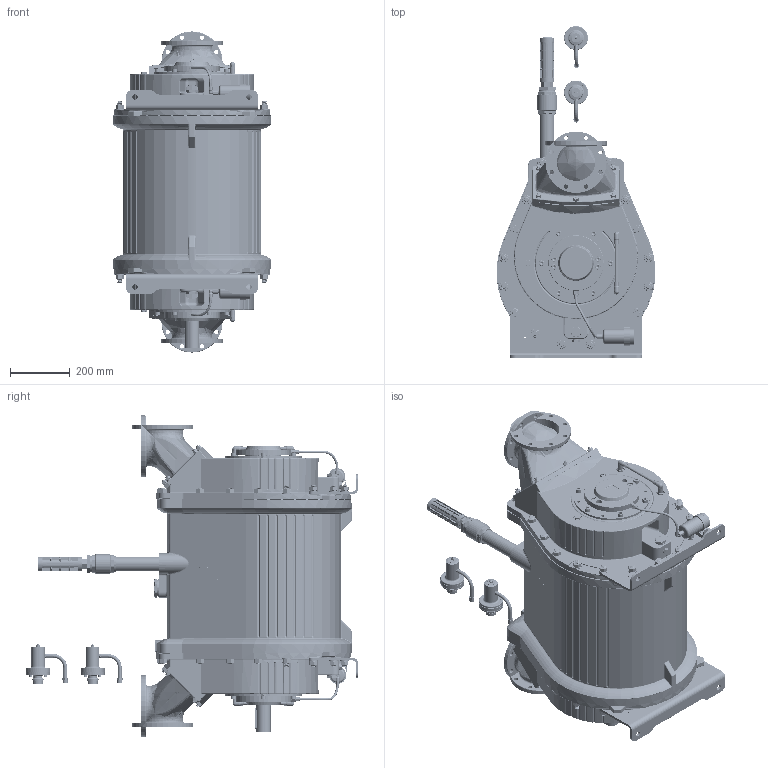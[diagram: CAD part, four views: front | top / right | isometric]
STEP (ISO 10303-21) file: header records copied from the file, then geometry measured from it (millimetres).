
FILE_DESCRIPTION(/* description */ (''),/* implementation_level */ '2;1');
FILE_NAME(/* name */ '1700171.stp',/* time_stamp */ '2026-04-24T09:18:07+02:00',/* author */ ('JJ'),/* organization */ (''),/* preprocessor_version */ 'ST-DEVELOPER v20',/* originating_system */ 'Autodesk Inventor 2025',/* authorisation */ '');
FILE_SCHEMA (('AUTOMOTIVE_DESIGN { 1 0 10303 214 3 1 1 }'));
Products named in the file (59): 1700171; 1659021; 1659049; 910100012; 910200009; 1634823; 1634808; 922000270; 910100022; 910200021; 944600276; 1634826; 1634811; 922000266; 1634824; 1634809; 922000269; 1659046; 915000217; 910300487; 910100191; 944600240; 915000232; 915000225; 915000225-part1; 915000225-part2; 915000217_1; 1634773; 915000215; 1659095; 915000050; 944600355; 944600356; 925000590; 925000587; 1659069; 1659017; 1634666; 1634667; 1634668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
Assembly tree (139 placements, depth 3):
  1700171
    1659017  x4
    1659069  x4
    1659021  x2
    910100022  x16
    910200021  x16
    910100012  x12
    910200009  x12
    1634823  x2
      1634808
      922000270
    1634826  x2
      1634811
      922000266
    1659049  x2
    944600276  x4
    1659046  x2
    1634824  x2
      1634809
      922000269
    915000050  x2
    910300487  x2
    910100191  x2
    944600240  x2
    915000232  x2
    915000225  x2
      915000225-part1
      915000225-part2
    1634773  x2
    915000215  x2
    915000217
    915000217_1
    1659095
    944600355
    944600356
    925000590
    925000587
    1634666  x2
      1634667
      1634668
      1634130
      1634131
      1634670
      1634134
      910200105
      910100125
      910300428
      921000047
      922100045
      922100339
      1634669
      925000651
      910300012
    925000862  x2
    927000134-TM2500  x2
    1659081_Simplify_body
    1636087
      1636088
      922000307
Bounding box: 529.22 x 1107.31 x 1071 mm (x, y, z)
Volume: 171500370.2 mm3; surface area: 6004588.3 mm2
Topology: 157 solids, 161 shells, 10050 faces, 26118 edges, 16848 vertices
Faces by surface type: plane 3718, bspline 2779, cylinder 2180, cone 825, torus 396, sphere 152
Full cylindrical faces by diameter (mm): 1.5 x16, 3.2 x4, 3.3 x4, 3.5 x2, 4 x4, 4.134 x4, 4.917 x2, 4.92 x10, 5 x2, 5.3 x2, 6 x46, 6.1 x2, 6.4 x2, 6.5 x8, 8 x32, 8.376 x14, 8.4 x2, 8.5 x2, 8.57 x2, 9.2 x2, 9.7 x2, 9.8 x4, 10 x188, 10.106 x9, 10.5 x12, 11 x62, 11.18 x2, 11.3 x4, 11.445 x8, 12 x33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
Entity records: 443967 total; most frequent: CARTESIAN_POINT 298498, ORIENTED_EDGE 31924, DIRECTION 23962, EDGE_CURVE 15963, VERTEX_POINT 10293, AXIS2_PLACEMENT_3D 8610, EDGE_LOOP 6998, LINE 6742
